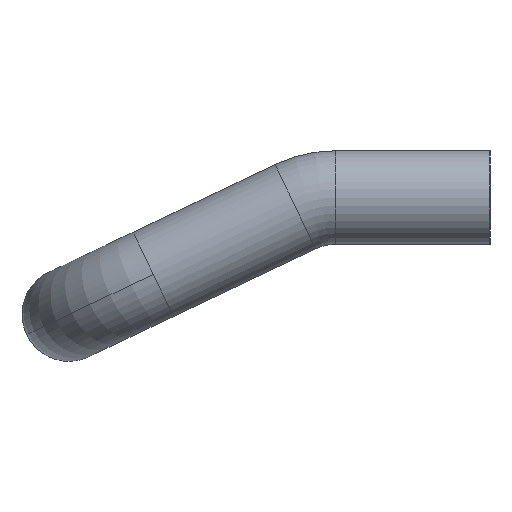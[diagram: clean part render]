
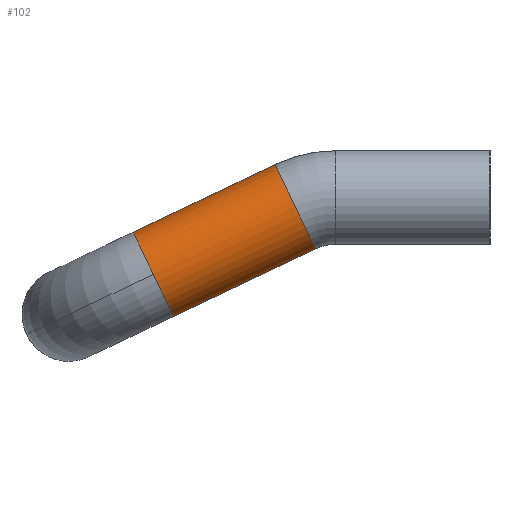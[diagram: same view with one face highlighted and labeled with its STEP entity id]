
A CAD part, left-side view. The second image highlights one B-rep face of the part: STEP entity #102.
In plain terms, the highlighted cylindrical face has radius 4 mm (diameter 8 mm), a partial arc.
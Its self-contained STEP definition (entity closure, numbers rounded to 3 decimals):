
#4 = CARTESIAN_POINT ( 'NONE',  ( -120., 18.352, 2.834 ) ) ;
#11 = CARTESIAN_POINT ( 'NONE',  ( -120., 30.497, -2.949 ) ) ;
#31 = CARTESIAN_POINT ( 'NONE',  ( -120., 27.057, -10.172 ) ) ;
#38 = VERTEX_POINT ( 'NONE', #877 ) ;
#51 = CIRCLE ( 'NONE', #89, 4. ) ;
#66 = FACE_OUTER_BOUND ( 'NONE', #332, .T. ) ;
#68 = VERTEX_POINT ( 'NONE', #196 ) ;
#74 = DIRECTION ( 'NONE',  ( 0., -0.43, -0.903 ) ) ;
#89 = AXIS2_PLACEMENT_3D ( 'NONE', #703, #340, #140 ) ;
#102 = ADVANCED_FACE ( 'NONE', ( #66 ), #343, .T. ) ;
#115 = EDGE_CURVE ( 'NONE', #68, #158, #201, .T. ) ;
#124 = CARTESIAN_POINT ( 'NONE',  ( -120., 28.777, -6.561 ) ) ;
#140 = DIRECTION ( 'NONE',  ( 0., 0.43, 0.903 ) ) ;
#148 = DIRECTION ( 'NONE',  ( 0., -0.903, 0.43 ) ) ;
#158 = VERTEX_POINT ( 'NONE', #4 ) ;
#167 = ORIENTED_EDGE ( 'NONE', *, *, #115, .F. ) ;
#168 = CARTESIAN_POINT ( 'NONE',  ( -120., 27.057, -10.172 ) ) ;
#188 = CIRCLE ( 'NONE', #697, 4. ) ;
#196 = CARTESIAN_POINT ( 'NONE',  ( -120., 30.497, -2.949 ) ) ;
#198 = EDGE_CURVE ( 'NONE', #38, #733, #51, .T. ) ;
#201 = LINE ( 'NONE', #11, #272 ) ;
#218 = CIRCLE ( 'NONE', #274, 4. ) ;
#267 = DIRECTION ( 'NONE',  ( 0., 0.43, 0.903 ) ) ;
#272 = VECTOR ( 'NONE', #148, 1000. ) ;
#274 = AXIS2_PLACEMENT_3D ( 'NONE', #124, #390, #840 ) ;
#282 = CARTESIAN_POINT ( 'NONE',  ( -120., 28.777, -6.561 ) ) ;
#325 = EDGE_CURVE ( 'NONE', #733, #570, #367, .T. ) ;
#332 = EDGE_LOOP ( 'NONE', ( #167, #411, #808, #528, #689 ) ) ;
#340 = DIRECTION ( 'NONE',  ( 0., -0.903, 0.43 ) ) ;
#343 = CYLINDRICAL_SURFACE ( 'NONE', #834, 4. ) ;
#367 = LINE ( 'NONE', #31, #413 ) ;
#390 = DIRECTION ( 'NONE',  ( 0., -0.903, 0.43 ) ) ;
#411 = ORIENTED_EDGE ( 'NONE', *, *, #538, .T. ) ;
#413 = VECTOR ( 'NONE', #792, 1000. ) ;
#484 = DIRECTION ( 'NONE',  ( 0., -0.903, 0.43 ) ) ;
#528 = ORIENTED_EDGE ( 'NONE', *, *, #325, .T. ) ;
#538 = EDGE_CURVE ( 'NONE', #68, #38, #218, .T. ) ;
#559 = EDGE_CURVE ( 'NONE', #158, #570, #188, .T. ) ;
#570 = VERTEX_POINT ( 'NONE', #761 ) ;
#689 = ORIENTED_EDGE ( 'NONE', *, *, #559, .F. ) ;
#697 = AXIS2_PLACEMENT_3D ( 'NONE', #764, #698, #267 ) ;
#698 = DIRECTION ( 'NONE',  ( 0., -0.903, 0.43 ) ) ;
#703 = CARTESIAN_POINT ( 'NONE',  ( -120., 28.777, -6.561 ) ) ;
#733 = VERTEX_POINT ( 'NONE', #168 ) ;
#761 = CARTESIAN_POINT ( 'NONE',  ( -120., 14.912, -4.389 ) ) ;
#764 = CARTESIAN_POINT ( 'NONE',  ( -120., 16.632, -0.777 ) ) ;
#792 = DIRECTION ( 'NONE',  ( 0., -0.903, 0.43 ) ) ;
#808 = ORIENTED_EDGE ( 'NONE', *, *, #198, .T. ) ;
#834 = AXIS2_PLACEMENT_3D ( 'NONE', #282, #484, #74 ) ;
#840 = DIRECTION ( 'NONE',  ( 0., 0.43, 0.903 ) ) ;
#877 = CARTESIAN_POINT ( 'NONE',  ( -124., 28.777, -6.561 ) ) ;
